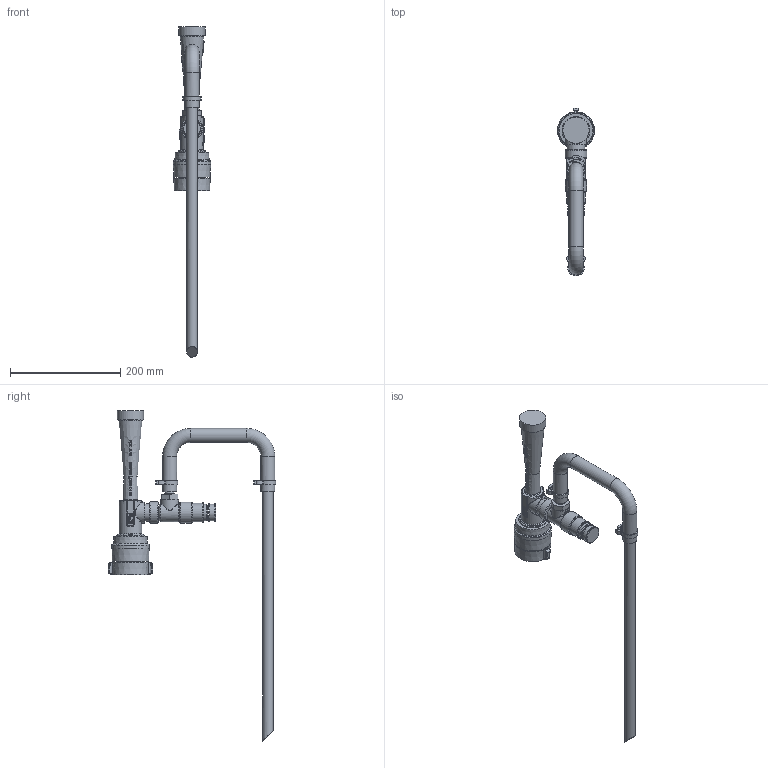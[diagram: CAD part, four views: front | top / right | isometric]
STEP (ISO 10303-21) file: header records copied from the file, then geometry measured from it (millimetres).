
FILE_DESCRIPTION (( 'STEP AP203' ), '1' );
FILE_NAME ('Z-Mous_450.STEP', '2014-04-30T15:09:22', ( 'eb' ), ( '' ), 'SwSTEP 2.0', 'SolidWorks 2013', '' );
FILE_SCHEMA (( 'CONFIG_CONTROL_DESIGN' ));
Length unit declared in the file: inch
Products named in the file (1): Z-Mous_450
Bounding box: 67.69 x 304.21 x 598.17 mm (x, y, z)
Volume: 926204.2 mm3; surface area: 133087.9 mm2
Topology: 2 solids, 2 shells, 582 faces, 1469 edges, 943 vertices
Faces by surface type: plane 344, cylinder 95, bspline 88, cone 26, torus 20, sphere 9
Full cylindrical faces by diameter (mm): 17.145 x1, 19.05 x1, 22.174 x1, 25.4 x3, 27.305 x1, 30.48 x2, 31.75 x2, 32.258 x1, 32.544 x1, 33.338 x1, 34.925 x2, 38.1 x2, 39.688 x1, 41.275 x1, 47.803 x1, 49.2 x1, 50.673 x1, 65.806 x1
Entity records: 24657 total; most frequent: CARTESIAN_POINT 12017, ORIENTED_EDGE 2754, DIRECTION 2260, EDGE_CURVE 1377, VERTEX_POINT 913, AXIS2_PLACEMENT_3D 775, VECTOR 710, LINE 710
